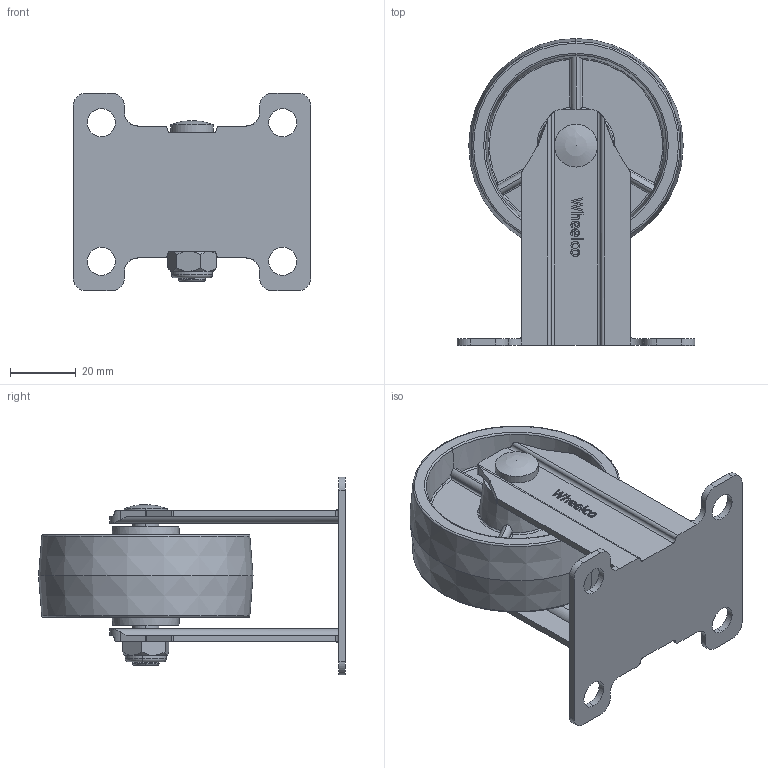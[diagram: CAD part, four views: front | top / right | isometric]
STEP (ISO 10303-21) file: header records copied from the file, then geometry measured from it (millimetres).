
FILE_DESCRIPTION (( 'STEP AP214' ), '1' );
FILE_NAME ('WLN65-F.step', '2024-01-15T01:45:51', ( '' ), ( '' ), 'SwSTEP 2.0', 'SolidWorks 2022', '' );
FILE_SCHEMA (( 'AUTOMOTIVE_DESIGN' ));
Length unit declared in the file: millimetre
Products named in the file (5): WC-M8x48; WLN65-F; M8Nyloc-WHITE; WLN65; WLN65-F FORK
Assembly tree (4 placements, depth 2):
  WLN65-F
    WLN65-F FORK
    WC-M8x48
    M8Nyloc-WHITE
    WLN65
Bounding box: 72 x 93 x 60 mm (x, y, z)
Volume: 60977.7 mm3; surface area: 35618.7 mm2
Topology: 4 solids, 4 shells, 356 faces, 965 edges, 631 vertices
Faces by surface type: plane 128, cylinder 124, bspline 51, torus 26, cone 26, sphere 1
Entity records: 16724 total; most frequent: CARTESIAN_POINT 8181, ORIENTED_EDGE 1924, DIRECTION 1487, EDGE_CURVE 962, VERTEX_POINT 629, AXIS2_PLACEMENT_3D 515, VECTOR 457, LINE 457
